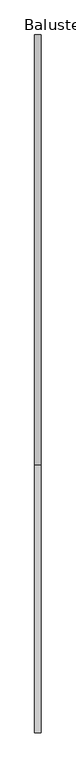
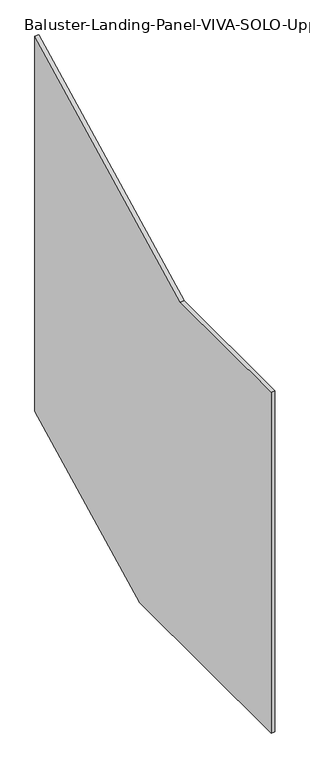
"""IFC4 building model written with IfcOpenShell, lengths in millimetres: railing geometry, Baluster-Landing-Panel-VIVA-SOLO-Upper : Standard_Glass."""

from ifc_helpers import new_model, si_unit, frame, origin, place, context, project, spatial, polyline, outline, extrude, source, transform, mapped, element, save


def baluster_landing_panel_viva_solo_upper_standard_glass_884fc629(model_context):
    return source(origin(), model_context, "Body", "SweptSolid", [
        extrude(outline(polyline([(-629.6377199, 1109.345), (0.0, 1429.8846467), (0.0, 439.42), (-454.029522, 208.28), (-1021.9757429, 208.28), (-1021.9757429, 1109.345), (-629.6377199, 1109.345)])), frame((31.6077292, 0.0, 0.0), z_axis=(1.0, 0.0, 0.0), x_axis=(0.0, 1.0, 0.0)), (0.0, 0.0, 1.0), 9.525),
    ])


if __name__ == "__main__":
    model = new_model("IFC4")
    model_context = context("Model", 3, world=origin())
    ifc_project = project(units=[si_unit("LENGTHUNIT", "METRE", prefix="MILLI")], contexts=[model_context])
    site = spatial("IfcSite", under=ifc_project)
    building = spatial("IfcBuilding", under=site)
    placement = place(None, origin())
    baluster_landing_panel_viva_solo_upper_standard_glass_shape = baluster_landing_panel_viva_solo_upper_standard_glass_884fc629(model_context)
    element("IfcRailing", 1, ObjectType="Baluster-Landing-Panel-VIVA-SOLO-Upper : Standard_Glass", at=placement, inside=building, context=model_context, shape_type="MappedRepresentation", body=[
        mapped(baluster_landing_panel_viva_solo_upper_standard_glass_shape, transform((0.0, 0.0, 0.0), x_axis=(1.0, 0.0, 0.0), y_axis=(0.0, 1.0, 0.0), z_axis=(0.0, 0.0, 1.0))),
    ])
    save(model, "model.ifc")
